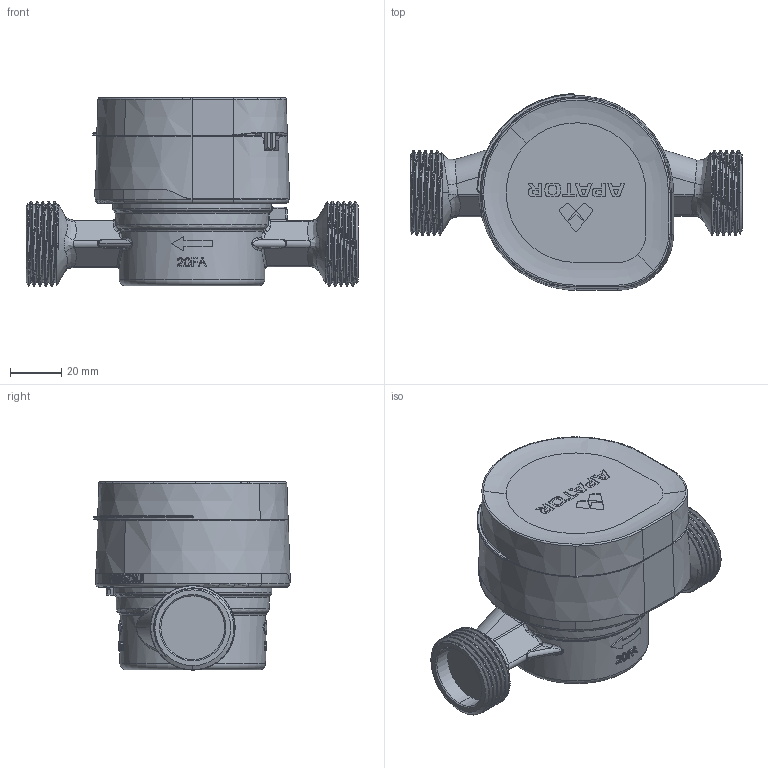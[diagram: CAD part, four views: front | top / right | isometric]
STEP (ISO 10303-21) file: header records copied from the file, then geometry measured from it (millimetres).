
FILE_DESCRIPTION (( 'STEP AP214' ), '1' );
FILE_NAME ('JS4-05.STEP', '2022-09-14T10:59:14', ( '' ), ( '' ), 'SwSTEP 2.0', 'SolidWorks 2019', '' );
FILE_SCHEMA (( 'AUTOMOTIVE_DESIGN' ));
Length unit declared in the file: millimetre
Products named in the file (10): 9004-750202_zagi﹖a; Part-3118; Liczyd³o; JS4-05; js4; 9004-750201; Part-3117; Assembly-1108; szklanka; Part-3116
Assembly tree (9 placements, depth 3):
  JS4-05
    js4
    Assembly-1108
      9004-750201
      9004-750202_zagi﹖a
    Part-3118
    Part-3117
    Part-3116
    Liczyd³o
    szklanka
Bounding box: 130 x 77.02 x 73.67 mm (x, y, z)
Volume: 258996.6 mm3; surface area: 101622.6 mm2
Topology: 9 solids, 18 shells, 2596 faces, 7135 edges, 4649 vertices
Faces by surface type: plane 1137, bspline 573, cylinder 506, cone 255, torus 106, sphere 19
Entity records: 150026 total; most frequent: CARTESIAN_POINT 73401, ORIENTED_EDGE 14228, DIRECTION 10430, EDGE_CURVE 7114, VERTEX_POINT 4643, AXIS2_PLACEMENT_3D 3772, VECTOR 2886, LINE 2886
